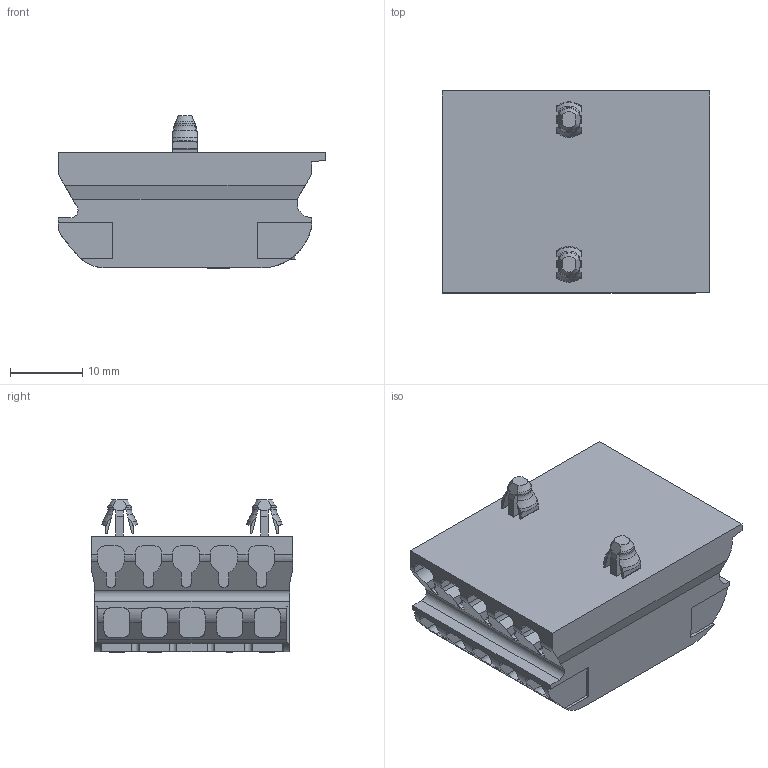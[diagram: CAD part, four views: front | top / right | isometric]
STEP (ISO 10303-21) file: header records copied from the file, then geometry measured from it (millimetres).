
FILE_DESCRIPTION(/* description */ ('Unknown'),/* implementation_level */ '2;1');
FILE_NAME(/* name */ '024-30M-04',/* time_stamp */ '2024-10-29T11:11:27+01:00',/* author */ ('Unknown'),/* organization */ ('Unknown'),/* preprocessor_version */ 'ST-DEVELOPER v16.7',/* originating_system */ 'Solid Edge',/* authorisation */ 'Unknown');
FILE_SCHEMA (('AUTOMOTIVE_DESIGN {1 0 10303 214 3 1 1}'));
Length unit declared in the file: millimetre
Products named in the file (3): 024-30M-04; 024-309-03; 024-30M-02
Assembly tree (2 placements, depth 2):
  024-30M-04
    024-309-03
    024-30M-02
Bounding box: 36.95 x 27.9 x 21.01 mm (x, y, z)
Volume: 11788.9 mm3; surface area: 6734.5 mm2
Topology: 17 solids, 17 shells, 676 faces, 1877 edges, 1248 vertices
Faces by surface type: plane 475, cylinder 177, cone 12, torus 8, bspline 4
Full cylindrical faces by diameter (mm): 2.134 x5, 4.63 x1, 5.21 x1
Entity records: 21909 total; most frequent: CARTESIAN_POINT 4370, ORIENTED_EDGE 3740, DIRECTION 3460, EDGE_CURVE 1870, LINE 1324, VECTOR 1324, VERTEX_POINT 1248, AXIS2_PLACEMENT_3D 1068
